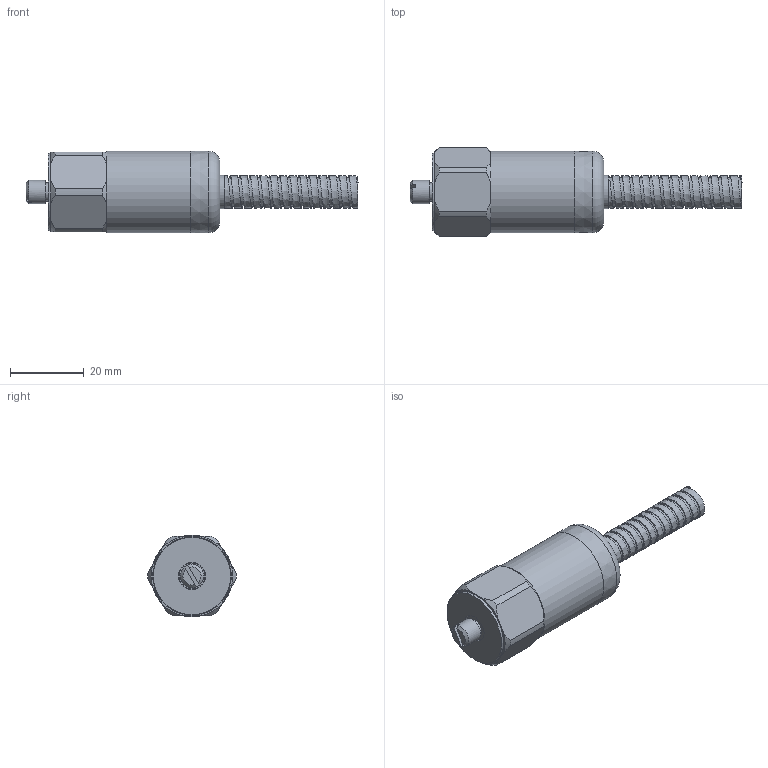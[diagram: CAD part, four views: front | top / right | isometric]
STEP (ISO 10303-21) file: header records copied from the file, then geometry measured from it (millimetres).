
FILE_DESCRIPTION(/* description */ (''),/* implementation_level */ '2;1');
FILE_NAME(/* name */ 'Z:\Engineering\Drawings\3D Library\Assemblies\Website\Premium Top\HS-150 Top FEP Cable with Protective Conduit\HS-150XXX30C02.stp',/* time_stamp */ '2023-03-02T22:49:56+00:00',/* author */ ('Ricardo.Peneda'),/* organization */ (''),/* preprocessor_version */ 'ST-DEVELOPER v18.1',/* originating_system */ 'Autodesk Inventor 2021',/* authorisation */ '');
FILE_SCHEMA (('AUTOMOTIVE_DESIGN { 1 0 10303 214 3 1 1 }'));
Length unit declared in the file: inch
Products named in the file (1): HS-150XXX30C02_Shrinkwrap_1
Bounding box: 90.3 x 23.99 x 22.22 mm (x, y, z)
Volume: 12859.7 mm3; surface area: 10491 mm2
Topology: 4 solids, 4 shells, 102 faces, 275 edges, 190 vertices
Faces by surface type: plane 38, cone 37, cylinder 18, bspline 8, torus 1
Full cylindrical faces by diameter (mm): 4.914 x2, 5.359 x1, 6.34 x2, 7.027 x1, 7.5 x1, 9 x1, 15.055 x1, 20 x1, 21 x1, 22.2 x1
Entity records: 17375 total; most frequent: CARTESIAN_POINT 14649, DIRECTION 552, ORIENTED_EDGE 548, EDGE_CURVE 274, AXIS2_PLACEMENT_3D 231, VERTEX_POINT 190, CIRCLE 136, EDGE_LOOP 114
